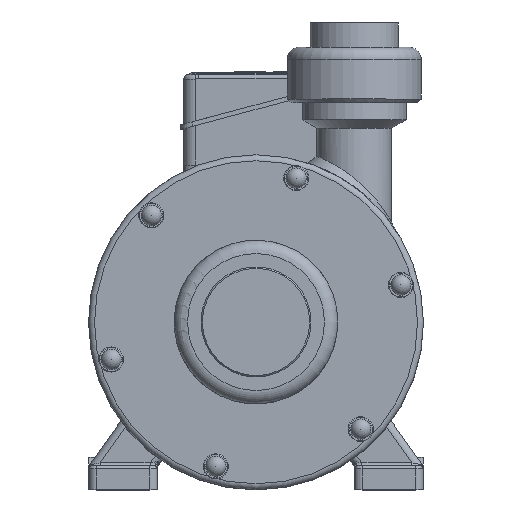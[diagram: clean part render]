
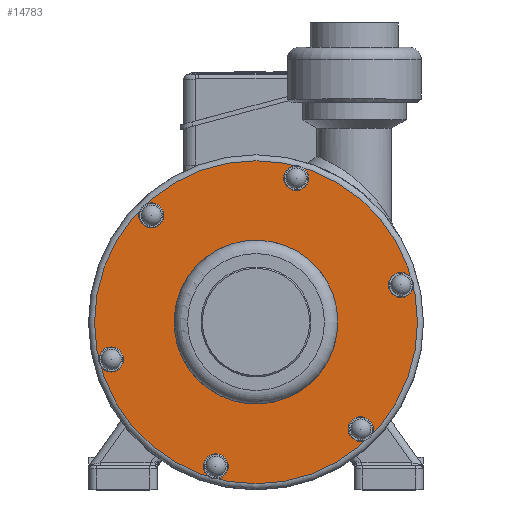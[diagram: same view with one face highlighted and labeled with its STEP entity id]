
A CAD part, top view. The second image highlights one B-rep face of the part: STEP entity #14783.
In plain terms, the highlighted planar face has unit normal (0, 0, 1).
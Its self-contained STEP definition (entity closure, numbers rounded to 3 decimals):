
#875=FACE_BOUND('',#3718,.T.);
#2859=FACE_OUTER_BOUND('',#3717,.T.);
#3717=EDGE_LOOP('',(#9205,#9206));
#3718=EDGE_LOOP('',(#9207,#9208));
#4626=CIRCLE('',#15737,108.5);
#4627=CIRCLE('',#15738,108.5);
#4628=CIRCLE('',#15739,44.);
#4629=CIRCLE('',#15740,44.);
#5436=VERTEX_POINT('',#21514);
#5437=VERTEX_POINT('',#21515);
#5438=VERTEX_POINT('',#21518);
#5439=VERTEX_POINT('',#21519);
#6920=EDGE_CURVE('',#5436,#5437,#4626,.T.);
#6921=EDGE_CURVE('',#5437,#5436,#4627,.T.);
#6922=EDGE_CURVE('',#5438,#5439,#4628,.T.);
#6923=EDGE_CURVE('',#5439,#5438,#4629,.T.);
#9205=ORIENTED_EDGE('',*,*,#6920,.T.);
#9206=ORIENTED_EDGE('',*,*,#6921,.T.);
#9207=ORIENTED_EDGE('',*,*,#6922,.F.);
#9208=ORIENTED_EDGE('',*,*,#6923,.F.);
#13588=PLANE('',#15736);
#14783=ADVANCED_FACE('',(#2859,#875),#13588,.T.);
#15736=AXIS2_PLACEMENT_3D('',#21513,#17460,#17461);
#15737=AXIS2_PLACEMENT_3D('',#21516,#17462,#17463);
#15738=AXIS2_PLACEMENT_3D('',#21517,#17464,#17465);
#15739=AXIS2_PLACEMENT_3D('',#21520,#17466,#17467);
#15740=AXIS2_PLACEMENT_3D('',#21521,#17468,#17469);
#17460=DIRECTION('center_axis',(0.,0.,
1.));
#17461=DIRECTION('ref_axis',(0.,-1.,0.));
#17462=DIRECTION('center_axis',(0.,0.,
1.));
#17463=DIRECTION('ref_axis',(1.,0.,0.));
#17464=DIRECTION('center_axis',(0.,0.,
1.));
#17465=DIRECTION('ref_axis',(1.,0.,0.));
#17466=DIRECTION('center_axis',(0.,0.,
1.));
#17467=DIRECTION('ref_axis',(1.,0.,0.));
#17468=DIRECTION('center_axis',(0.,0.,
1.));
#17469=DIRECTION('ref_axis',(1.,0.,0.));
#21513=CARTESIAN_POINT('Origin',(76.25,0.,
304.05));
#21514=CARTESIAN_POINT('',(108.5,0.,304.05));
#21515=CARTESIAN_POINT('',(0.,108.5,304.05));
#21516=CARTESIAN_POINT('Origin',(0.,0.,
304.05));
#21517=CARTESIAN_POINT('Origin',(0.,0.,
304.05));
#21518=CARTESIAN_POINT('',(44.,0.,304.05));
#21519=CARTESIAN_POINT('',(-44.,0.,304.05));
#21520=CARTESIAN_POINT('Origin',(0.,0.,
304.05));
#21521=CARTESIAN_POINT('Origin',(0.,0.,
304.05));
